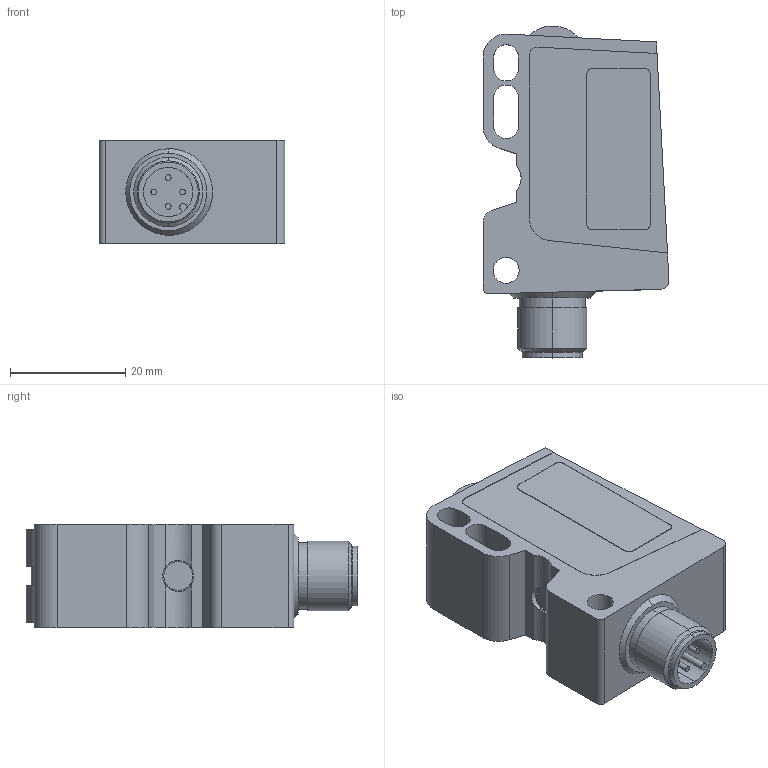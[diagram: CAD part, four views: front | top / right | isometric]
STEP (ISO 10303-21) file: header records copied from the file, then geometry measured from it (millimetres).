
FILE_DESCRIPTION((''),'2;1');
FILE_NAME('2037088','2026-06-29T06:54:05',('l.wegerer'),(''),'CREO PARAMETRIC BY PTC INC, 2019292','CREO PARAMETRIC BY PTC INC, 2019292','');
FILE_SCHEMA(('AUTOMOTIVE_DESIGN { 1 0 10303 214 1 1 1 1 }'));
Length unit declared in the file: millimetre
Products named in the file (1): 2037088
Bounding box: 32.25 x 57.59 x 18 mm (x, y, z)
Volume: 22973.8 mm3; surface area: 7121.6 mm2
Topology: 1 solids, 1 shells, 111 faces, 293 edges, 198 vertices
Faces by surface type: plane 56, cylinder 49, cone 6
Entity records: 4663 total; most frequent: CARTESIAN_POINT 735, DIRECTION 623, ORIENTED_EDGE 586, EDGE_CURVE 293, AXIS2_PLACEMENT_3D 225, VERTEX_POINT 198, VECTOR 173, LINE 173
